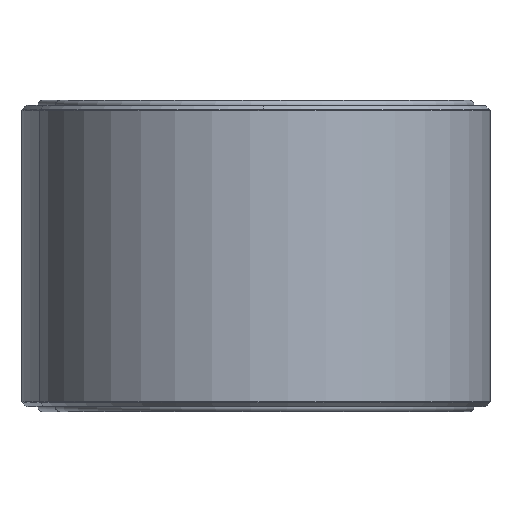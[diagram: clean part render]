
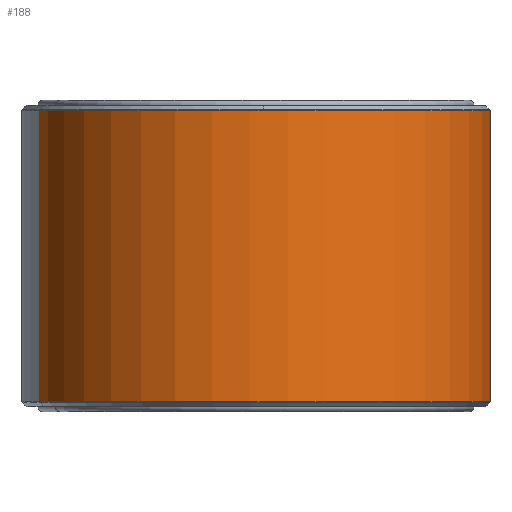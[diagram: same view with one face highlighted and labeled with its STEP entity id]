
A CAD part, left-side view. The second image highlights one B-rep face of the part: STEP entity #188.
In plain terms, the highlighted cylindrical face has radius 47.35 mm (diameter 94.7 mm), a partial arc.
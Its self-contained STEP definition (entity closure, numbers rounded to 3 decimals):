
#31 = CARTESIAN_POINT ( 'NONE',  ( 11.255, -45.993, -30.293 ) ) ;
#53 = DIRECTION ( 'NONE',  ( 0., 0., 1. ) ) ;
#188 = ADVANCED_FACE ( 'NONE', ( #4136 ), #2357, .T. ) ;
#313 = DIRECTION ( 'NONE',  ( 1., 0., 0. ) ) ;
#364 = ORIENTED_EDGE ( 'NONE', *, *, #1741, .F. ) ;
#518 = VERTEX_POINT ( 'NONE', #6097 ) ;
#547 = CARTESIAN_POINT ( 'NONE',  ( 11.255, -45.993, -30.293 ) ) ;
#1069 = CARTESIAN_POINT ( 'NONE',  ( 0., 0., 30.293 ) ) ;
#1239 = AXIS2_PLACEMENT_3D ( 'NONE', #1069, #1569, #4529 ) ;
#1370 = VECTOR ( 'NONE', #3082, 1000. ) ;
#1569 = DIRECTION ( 'NONE',  ( 0., 0., 1. ) ) ;
#1714 = CARTESIAN_POINT ( 'NONE',  ( -6.981, 46.833, -30.293 ) ) ;
#1741 = EDGE_CURVE ( 'NONE', #6238, #5824, #3092, .T. ) ;
#2032 = EDGE_CURVE ( 'NONE', #6238, #5014, #6196, .T. ) ;
#2075 = DIRECTION ( 'NONE',  ( 1., 0., 0. ) ) ;
#2357 = CYLINDRICAL_SURFACE ( 'NONE', #3159, 47.35 ) ;
#2834 = AXIS2_PLACEMENT_3D ( 'NONE', #3982, #53, #2075 ) ;
#3082 = DIRECTION ( 'NONE',  ( 0., 0., 1. ) ) ;
#3092 = LINE ( 'NONE', #1714, #5415 ) ;
#3159 = AXIS2_PLACEMENT_3D ( 'NONE', #3366, #4768, #313 ) ;
#3366 = CARTESIAN_POINT ( 'NONE',  ( 0., 0., 0. ) ) ;
#3372 = CARTESIAN_POINT ( 'NONE',  ( -6.981, 46.833, 30.293 ) ) ;
#3585 = CIRCLE ( 'NONE', #1239, 47.35 ) ;
#3630 = ORIENTED_EDGE ( 'NONE', *, *, #2032, .T. ) ;
#3982 = CARTESIAN_POINT ( 'NONE',  ( 0., 0., -30.293 ) ) ;
#4000 = LINE ( 'NONE', #547, #1370 ) ;
#4105 = CARTESIAN_POINT ( 'NONE',  ( -6.981, 46.833, -30.293 ) ) ;
#4136 = FACE_OUTER_BOUND ( 'NONE', #4144, .T. ) ;
#4144 = EDGE_LOOP ( 'NONE', ( #364, #3630, #6145, #5776 ) ) ;
#4235 = DIRECTION ( 'NONE',  ( 0., 0., 1. ) ) ;
#4529 = DIRECTION ( 'NONE',  ( 1., 0., 0. ) ) ;
#4768 = DIRECTION ( 'NONE',  ( 0., 0., 1. ) ) ;
#5014 = VERTEX_POINT ( 'NONE', #31 ) ;
#5051 = EDGE_CURVE ( 'NONE', #5824, #518, #3585, .T. ) ;
#5415 = VECTOR ( 'NONE', #4235, 1000. ) ;
#5776 = ORIENTED_EDGE ( 'NONE', *, *, #5051, .F. ) ;
#5824 = VERTEX_POINT ( 'NONE', #3372 ) ;
#6097 = CARTESIAN_POINT ( 'NONE',  ( 11.255, -45.993, 30.293 ) ) ;
#6145 = ORIENTED_EDGE ( 'NONE', *, *, #6218, .T. ) ;
#6196 = CIRCLE ( 'NONE', #2834, 47.35 ) ;
#6218 = EDGE_CURVE ( 'NONE', #5014, #518, #4000, .T. ) ;
#6238 = VERTEX_POINT ( 'NONE', #4105 ) ;
